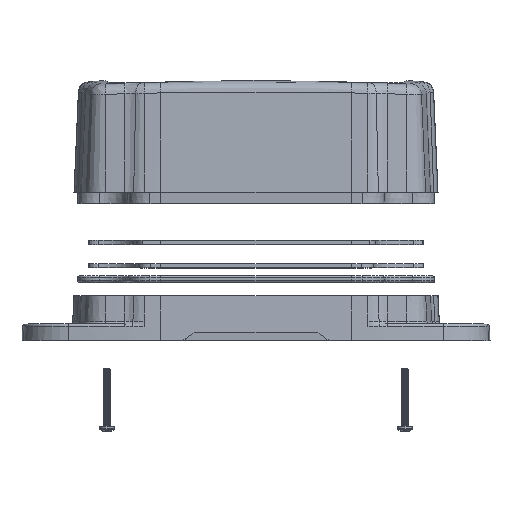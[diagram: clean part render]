
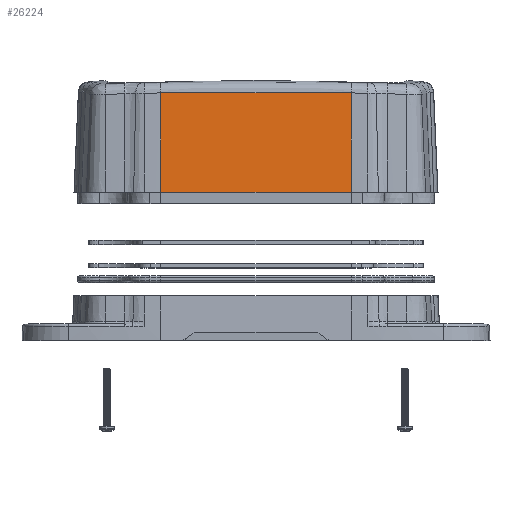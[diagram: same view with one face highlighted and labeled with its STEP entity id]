
A CAD part, top view. The second image highlights one B-rep face of the part: STEP entity #26224.
In plain terms, the highlighted planar face has unit normal (0, 0.044, 0.999).
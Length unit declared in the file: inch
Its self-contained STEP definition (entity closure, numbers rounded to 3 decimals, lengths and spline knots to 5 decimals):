
#1119 = VECTOR ( 'NONE', #19840, 39.37008 ) ;
#1610 = VERTEX_POINT ( 'NONE', #49181 ) ;
#2221 = ORIENTED_EDGE ( 'NONE', *, *, #44279, .F. ) ;
#3275 = EDGE_LOOP ( 'NONE', ( #2221, #18959, #19176, #22722 ) ) ;
#3877 = CARTESIAN_POINT ( 'NONE',  ( -1.4375, 0., 1.75 ) ) ;
#4365 = DIRECTION ( 'NONE',  ( 0., -0.999, 0.044 ) ) ;
#5917 = EDGE_CURVE ( 'NONE', #17729, #25170, #44294, .T. ) ;
#7206 = EDGE_CURVE ( 'NONE', #1610, #28162, #14414, .T. ) ;
#9739 = DIRECTION ( 'NONE',  ( 0., 0.044, 0.999 ) ) ;
#11792 = DIRECTION ( 'NONE',  ( 0., -0.999, 0.044 ) ) ;
#12286 = CARTESIAN_POINT ( 'NONE',  ( -1.4375, 0., 1.75 ) ) ;
#14414 = B_SPLINE_CURVE_WITH_KNOTS ( 'NONE', 3,
 ( #22653, #23675, #27580, #49834 ),
 .UNSPECIFIED., .F., .F.,
 ( 4, 4 ),
 ( 0., 0.07303 ),
 .UNSPECIFIED. ) ;
#16501 = CARTESIAN_POINT ( 'NONE',  ( -1.4375, 1.49984, 1.68452 ) ) ;
#17263 = CARTESIAN_POINT ( 'NONE',  ( -1.4375, 0., 1.75 ) ) ;
#17729 = VERTEX_POINT ( 'NONE', #32845 ) ;
#18959 = ORIENTED_EDGE ( 'NONE', *, *, #7206, .T. ) ;
#19176 = ORIENTED_EDGE ( 'NONE', *, *, #40338, .T. ) ;
#19840 = DIRECTION ( 'NONE',  ( 1., 0., 0. ) ) ;
#21702 = PLANE ( 'NONE',  #33265 ) ;
#22653 = CARTESIAN_POINT ( 'NONE',  ( 1.4375, 1.49984, 1.68452 ) ) ;
#22722 = ORIENTED_EDGE ( 'NONE', *, *, #5917, .T. ) ;
#23675 = CARTESIAN_POINT ( 'NONE',  ( 0.47917, 1.5297, 1.68321 ) ) ;
#25170 = VERTEX_POINT ( 'NONE', #48485 ) ;
#26224 = ADVANCED_FACE ( 'NONE', ( #29256 ), #21702, .T. ) ;
#26468 = LINE ( 'NONE', #27472, #49524 ) ;
#26648 = VECTOR ( 'NONE', #4365, 39.37008 ) ;
#27472 = CARTESIAN_POINT ( 'NONE',  ( 1.4375, 0., 1.75 ) ) ;
#27580 = CARTESIAN_POINT ( 'NONE',  ( -0.47917, 1.5297, 1.68321 ) ) ;
#28162 = VERTEX_POINT ( 'NONE', #16501 ) ;
#29256 = FACE_OUTER_BOUND ( 'NONE', #3275, .T. ) ;
#32845 = CARTESIAN_POINT ( 'NONE',  ( -1.4375, 0., 1.75 ) ) ;
#33265 = AXIS2_PLACEMENT_3D ( 'NONE', #17263, #9739, #49050 ) ;
#40338 = EDGE_CURVE ( 'NONE', #28162, #17729, #47934, .T. ) ;
#44279 = EDGE_CURVE ( 'NONE', #1610, #25170, #26468, .T. ) ;
#44294 = LINE ( 'NONE', #12286, #1119 ) ;
#47934 = LINE ( 'NONE', #3877, #26648 ) ;
#48485 = CARTESIAN_POINT ( 'NONE',  ( 1.4375, 0., 1.75 ) ) ;
#49050 = DIRECTION ( 'NONE',  ( 0., -0.999, 0.044 ) ) ;
#49181 = CARTESIAN_POINT ( 'NONE',  ( 1.4375, 1.49984, 1.68452 ) ) ;
#49524 = VECTOR ( 'NONE', #11792, 39.37008 ) ;
#49834 = CARTESIAN_POINT ( 'NONE',  ( -1.4375, 1.49984, 1.68452 ) ) ;
